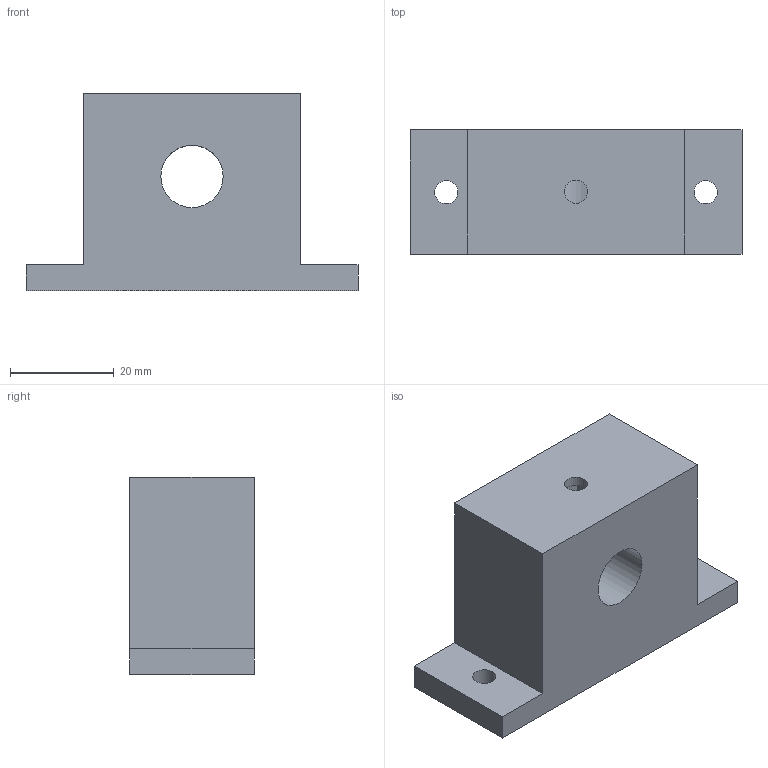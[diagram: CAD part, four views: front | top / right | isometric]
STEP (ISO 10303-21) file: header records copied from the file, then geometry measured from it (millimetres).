
FILE_DESCRIPTION(('Open CASCADE Model'),'2;1');
FILE_NAME('Open CASCADE Shape Model','2026-10-21T17:23:52',('Author'),( 'Open CASCADE'),'Open CASCADE STEP processor 7.9','Open CASCADE 7.9' ,'Unknown');
FILE_SCHEMA(('AUTOMOTIVE_DESIGN { 1 0 10303 214 1 1 1 1 }'));
Length unit declared in the file: millimetre
Products named in the file (1): Open CASCADE STEP translator 7.9 53
Bounding box: 64 x 24 x 38 mm (x, y, z)
Volume: 37352.8 mm3; surface area: 9384.9 mm2
Topology: 1 solids, 1 shells, 19 faces, 48 edges, 32 vertices
Faces by surface type: plane 15, cylinder 4
Full cylindrical faces by diameter (mm): 4.5 x3, 12 x1
Entity records: 1240 total; most frequent: CARTESIAN_POINT 232, DIRECTION 188, LINE 124, VECTOR 124, ORIENTED_EDGE 96, PCURVE 96, DEFINITIONAL_REPRESENTATION 96, EDGE_CURVE 48
